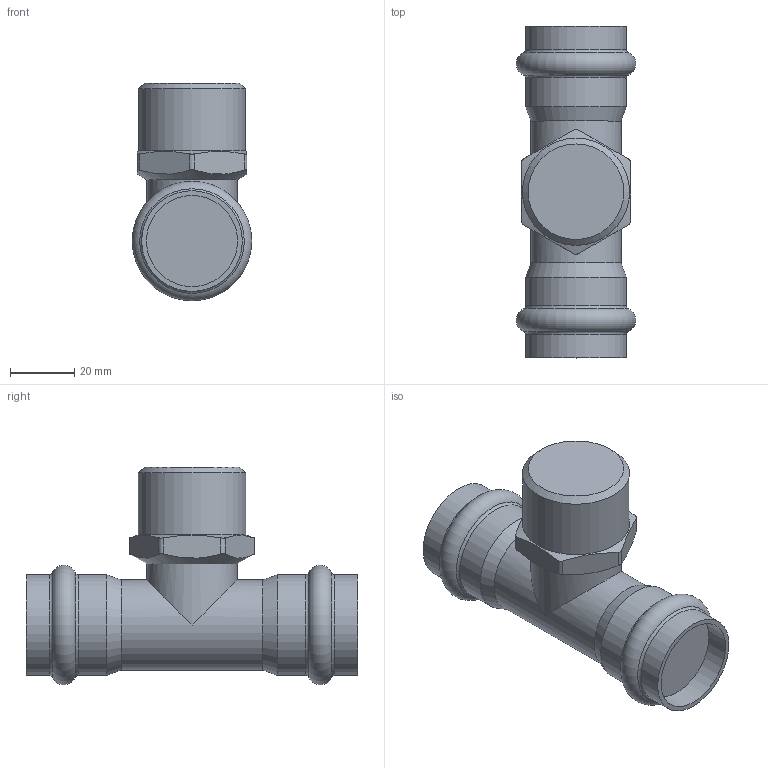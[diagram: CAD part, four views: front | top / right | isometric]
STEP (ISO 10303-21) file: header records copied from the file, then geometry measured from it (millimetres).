
FILE_DESCRIPTION(('STEP AP203'), '1');
FILE_NAME('VTi.933.I.280628', '', ('UNSPECIFIED'), ('UNSPECIFIED'), 'C3D Converter', 'C3D Toolkit', '');
FILE_SCHEMA(('CONFIG_CONTROL_DESIGN'));
Length unit declared in the file: millimetre
Bounding box: 37.1 x 103 x 67.55 mm (x, y, z)
Volume: 96904.4 mm3; surface area: 17582.8 mm2
Topology: 1 solids, 1 shells, 37 faces, 86 edges, 53 vertices
Faces by surface type: cylinder 15, plane 11, torus 6, cone 5
Full cylindrical faces by diameter (mm): 28 x2, 28.3 x2, 31.26 x4, 33.249 x1
Entity records: 1820 total; most frequent: CARTESIAN_POINT 1066, DIRECTION 134, ORIENTED_EDGE 130, EDGE_CURVE 65, AXIS2_PLACEMENT_3D 61, EDGE_LOOP 60, VERTEX_POINT 53, ADVANCED_FACE 37
